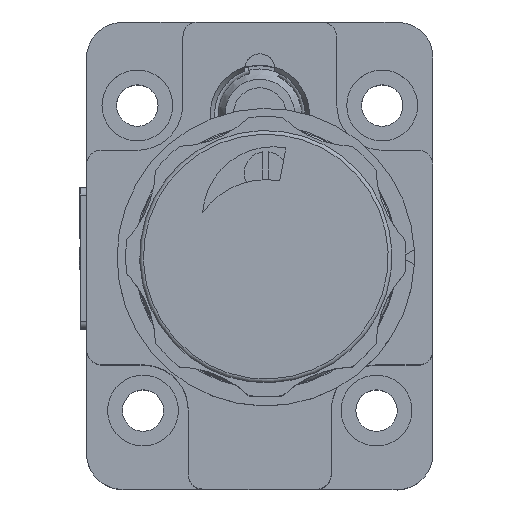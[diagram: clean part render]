
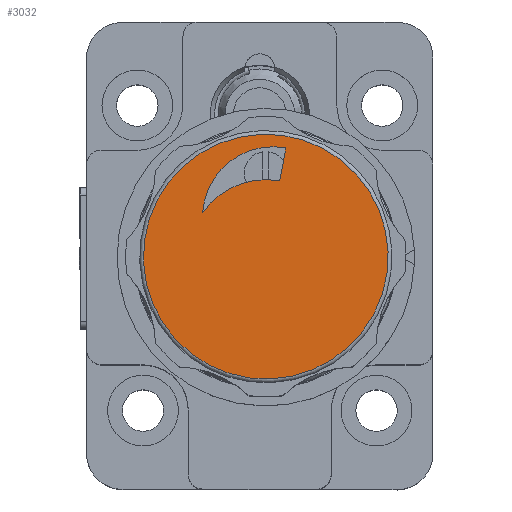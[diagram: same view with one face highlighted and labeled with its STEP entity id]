
A CAD part, top view. The second image highlights one B-rep face of the part: STEP entity #3032.
In plain terms, the highlighted planar face has unit normal (0, 0, 1).
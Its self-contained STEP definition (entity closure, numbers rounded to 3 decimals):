
#544=LINE('',#14216,#982);
#982=VECTOR('',#9101,1.);
#2825=PLANE('',#8313);
#3032=ADVANCED_FACE('',(#3613,#3614),#2825,.F.);
#3613=FACE_BOUND('',#3890,.T.);
#3614=FACE_BOUND('',#3891,.T.);
#3890=EDGE_LOOP('',(#4550));
#3891=EDGE_LOOP('',(#4551,#4552,#4553));
#4550=ORIENTED_EDGE('',*,*,#7071,.T.);
#4551=ORIENTED_EDGE('',*,*,#7072,.F.);
#4552=ORIENTED_EDGE('',*,*,#7073,.F.);
#4553=ORIENTED_EDGE('',*,*,#7074,.F.);
#6374=VERTEX_POINT('',#14215);
#6375=VERTEX_POINT('',#14217);
#6376=VERTEX_POINT('',#14218);
#6377=VERTEX_POINT('',#14220);
#7071=EDGE_CURVE('',#6374,#6374,#7974,.T.);
#7072=EDGE_CURVE('',#6375,#6376,#544,.T.);
#7073=EDGE_CURVE('',#6377,#6375,#7975,.T.);
#7074=EDGE_CURVE('',#6376,#6377,#7976,.T.);
#7974=CIRCLE('',#8310,16.25);
#7975=CIRCLE('',#8311,10.222);
#7976=CIRCLE('',#8312,9.379);
#8310=AXIS2_PLACEMENT_3D('',#14214,#9099,#9100);
#8311=AXIS2_PLACEMENT_3D('',#14219,#9102,#9103);
#8312=AXIS2_PLACEMENT_3D('',#14221,#9104,#9105);
#8313=AXIS2_PLACEMENT_3D('',#14222,#9106,#9107);
#9099=DIRECTION('',(0.,0.,1.));
#9100=DIRECTION('',(0.383,-0.924,0.));
#9101=DIRECTION('',(0.182,0.983,0.));
#9102=DIRECTION('',(0.,0.,-1.));
#9103=DIRECTION('',(-0.924,-0.383,0.));
#9104=DIRECTION('',(0.,0.,1.));
#9105=DIRECTION('',(-0.924,-0.383,0.));
#9106=DIRECTION('',(0.,0.,-1.));
#9107=DIRECTION('',(-0.383,0.924,0.));
#14214=CARTESIAN_POINT('',(62.089,74.876,132.7));
#14215=CARTESIAN_POINT('',(68.314,59.865,132.7));
#14216=CARTESIAN_POINT('',(63.948,84.928,132.7));
#14217=CARTESIAN_POINT('',(63.948,84.928,132.7));
#14218=CARTESIAN_POINT('',(64.758,89.309,132.7));
#14219=CARTESIAN_POINT('',(62.089,74.876,132.7));
#14220=CARTESIAN_POINT('',(53.694,80.708,132.7));
#14221=CARTESIAN_POINT('',(63.053,80.086,132.7));
#14222=CARTESIAN_POINT('',(70.403,78.323,132.7));
